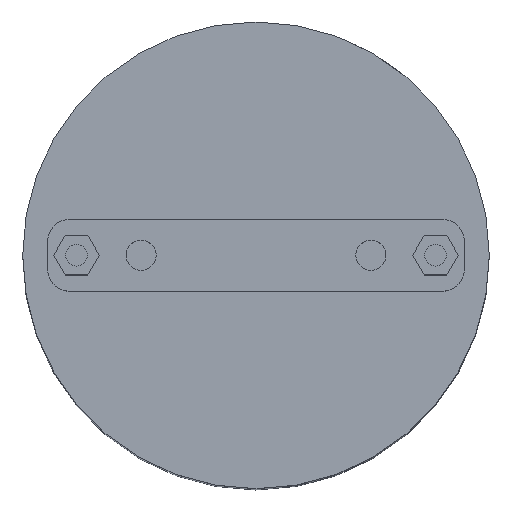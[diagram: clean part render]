
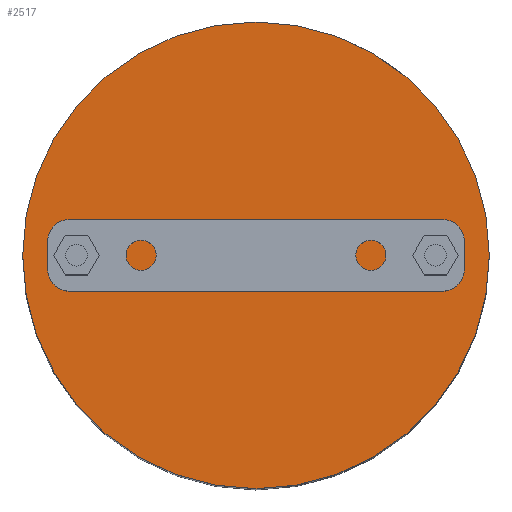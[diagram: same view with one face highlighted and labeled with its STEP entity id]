
A CAD part, top view. The second image highlights one B-rep face of the part: STEP entity #2517.
In plain terms, the highlighted planar face has unit normal (0, 0, 1).
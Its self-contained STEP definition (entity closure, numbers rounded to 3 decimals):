
#2401 = VERTEX_POINT('',#2402);
#2402 = CARTESIAN_POINT('',(32.5,0.,104.));
#2409 = CYLINDRICAL_SURFACE('',#2410,32.5);
#2410 = AXIS2_PLACEMENT_3D('',#2411,#2412,#2413);
#2411 = CARTESIAN_POINT('',(0.,0.,100.));
#2412 = DIRECTION('',(-0.,-0.,-1.));
#2413 = DIRECTION('',(1.,0.,0.));
#2428 = EDGE_CURVE('',#2401,#2401,#2429,.T.);
#2429 = SURFACE_CURVE('',#2430,(#2435,#2442),.PCURVE_S1.);
#2430 = CIRCLE('',#2431,32.5);
#2431 = AXIS2_PLACEMENT_3D('',#2432,#2433,#2434);
#2432 = CARTESIAN_POINT('',(0.,0.,104.));
#2433 = DIRECTION('',(0.,0.,1.));
#2434 = DIRECTION('',(1.,0.,0.));
#2435 = PCURVE('',#2409,#2436);
#2436 = DEFINITIONAL_REPRESENTATION('',(#2437),#2441);
#2437 = LINE('',#2438,#2439);
#2438 = CARTESIAN_POINT('',(-0.,-4.));
#2439 = VECTOR('',#2440,1.);
#2440 = DIRECTION('',(-1.,0.));
#2441 = ( GEOMETRIC_REPRESENTATION_CONTEXT(2) 
PARAMETRIC_REPRESENTATION_CONTEXT() REPRESENTATION_CONTEXT('2D SPACE',''
  ) );
#2442 = PCURVE('',#2443,#2448);
#2443 = PLANE('',#2444);
#2444 = AXIS2_PLACEMENT_3D('',#2445,#2446,#2447);
#2445 = CARTESIAN_POINT('',(0.,0.,104.)
  );
#2446 = DIRECTION('',(0.,0.,1.));
#2447 = DIRECTION('',(1.,0.,-0.));
#2448 = DEFINITIONAL_REPRESENTATION('',(#2449),#2453);
#2449 = CIRCLE('',#2450,32.5);
#2450 = AXIS2_PLACEMENT_2D('',#2451,#2452);
#2451 = CARTESIAN_POINT('',(0.,0.));
#2452 = DIRECTION('',(1.,0.));
#2453 = ( GEOMETRIC_REPRESENTATION_CONTEXT(2) 
PARAMETRIC_REPRESENTATION_CONTEXT() REPRESENTATION_CONTEXT('2D SPACE',''
  ) );
#2517 = ADVANCED_FACE('',(#2518,#2521,#2556),#2443,.T.);
#2518 = FACE_BOUND('',#2519,.T.);
#2519 = EDGE_LOOP('',(#2520));
#2520 = ORIENTED_EDGE('',*,*,#2428,.T.);
#2521 = FACE_BOUND('',#2522,.T.);
#2522 = EDGE_LOOP('',(#2523));
#2523 = ORIENTED_EDGE('',*,*,#2524,.T.);
#2524 = EDGE_CURVE('',#2525,#2525,#2527,.T.);
#2525 = VERTEX_POINT('',#2526);
#2526 = CARTESIAN_POINT('',(-23.3,0.,104.));
#2527 = SURFACE_CURVE('',#2528,(#2533,#2544),.PCURVE_S1.);
#2528 = CIRCLE('',#2529,1.7);
#2529 = AXIS2_PLACEMENT_3D('',#2530,#2531,#2532);
#2530 = CARTESIAN_POINT('',(-25.,0.,104.));
#2531 = DIRECTION('',(0.,0.,-1.));
#2532 = DIRECTION('',(1.,0.,0.));
#2533 = PCURVE('',#2443,#2534);
#2534 = DEFINITIONAL_REPRESENTATION('',(#2535),#2543);
#2535 = ( BOUNDED_CURVE() B_SPLINE_CURVE(2,(#2536,#2537,#2538,#2539,
#2540,#2541,#2542),.UNSPECIFIED.,.T.,.F.) B_SPLINE_CURVE_WITH_KNOTS((1,2
    ,2,2,2,1),(-2.094,0.,2.094,4.189,
6.283,8.378),.UNSPECIFIED.) CURVE() 
GEOMETRIC_REPRESENTATION_ITEM() RATIONAL_B_SPLINE_CURVE((1.,0.5,1.,0.5,
1.,0.5,1.)) REPRESENTATION_ITEM('') );
#2536 = CARTESIAN_POINT('',(-23.3,0.));
#2537 = CARTESIAN_POINT('',(-23.3,-2.944));
#2538 = CARTESIAN_POINT('',(-25.85,-1.472));
#2539 = CARTESIAN_POINT('',(-28.4,0.));
#2540 = CARTESIAN_POINT('',(-25.85,1.472));
#2541 = CARTESIAN_POINT('',(-23.3,2.944));
#2542 = CARTESIAN_POINT('',(-23.3,0.));
#2543 = ( GEOMETRIC_REPRESENTATION_CONTEXT(2) 
PARAMETRIC_REPRESENTATION_CONTEXT() REPRESENTATION_CONTEXT('2D SPACE',''
  ) );
#2544 = PCURVE('',#2545,#2550);
#2545 = CYLINDRICAL_SURFACE('',#2546,1.7);
#2546 = AXIS2_PLACEMENT_3D('',#2547,#2548,#2549);
#2547 = CARTESIAN_POINT('',(-25.,0.,96.));
#2548 = DIRECTION('',(-0.,-0.,-1.));
#2549 = DIRECTION('',(1.,0.,0.));
#2550 = DEFINITIONAL_REPRESENTATION('',(#2551),#2555);
#2551 = LINE('',#2552,#2553);
#2552 = CARTESIAN_POINT('',(-6.283,-8.));
#2553 = VECTOR('',#2554,1.);
#2554 = DIRECTION('',(1.,-0.));
#2555 = ( GEOMETRIC_REPRESENTATION_CONTEXT(2) 
PARAMETRIC_REPRESENTATION_CONTEXT() REPRESENTATION_CONTEXT('2D SPACE',''
  ) );
#2556 = FACE_BOUND('',#2557,.T.);
#2557 = EDGE_LOOP('',(#2558));
#2558 = ORIENTED_EDGE('',*,*,#2559,.T.);
#2559 = EDGE_CURVE('',#2560,#2560,#2562,.T.);
#2560 = VERTEX_POINT('',#2561);
#2561 = CARTESIAN_POINT('',(26.7,0.,104.));
#2562 = SURFACE_CURVE('',#2563,(#2568,#2579),.PCURVE_S1.);
#2563 = CIRCLE('',#2564,1.7);
#2564 = AXIS2_PLACEMENT_3D('',#2565,#2566,#2567);
#2565 = CARTESIAN_POINT('',(25.,0.,104.));
#2566 = DIRECTION('',(0.,0.,-1.));
#2567 = DIRECTION('',(1.,0.,0.));
#2568 = PCURVE('',#2443,#2569);
#2569 = DEFINITIONAL_REPRESENTATION('',(#2570),#2578);
#2570 = ( BOUNDED_CURVE() B_SPLINE_CURVE(2,(#2571,#2572,#2573,#2574,
#2575,#2576,#2577),.UNSPECIFIED.,.T.,.F.) B_SPLINE_CURVE_WITH_KNOTS((1,2
    ,2,2,2,1),(-2.094,0.,2.094,4.189,
6.283,8.378),.UNSPECIFIED.) CURVE() 
GEOMETRIC_REPRESENTATION_ITEM() RATIONAL_B_SPLINE_CURVE((1.,0.5,1.,0.5,
1.,0.5,1.)) REPRESENTATION_ITEM('') );
#2571 = CARTESIAN_POINT('',(26.7,0.));
#2572 = CARTESIAN_POINT('',(26.7,-2.944));
#2573 = CARTESIAN_POINT('',(24.15,-1.472));
#2574 = CARTESIAN_POINT('',(21.6,0.));
#2575 = CARTESIAN_POINT('',(24.15,1.472));
#2576 = CARTESIAN_POINT('',(26.7,2.944));
#2577 = CARTESIAN_POINT('',(26.7,0.));
#2578 = ( GEOMETRIC_REPRESENTATION_CONTEXT(2) 
PARAMETRIC_REPRESENTATION_CONTEXT() REPRESENTATION_CONTEXT('2D SPACE',''
  ) );
#2579 = PCURVE('',#2580,#2585);
#2580 = CYLINDRICAL_SURFACE('',#2581,1.7);
#2581 = AXIS2_PLACEMENT_3D('',#2582,#2583,#2584);
#2582 = CARTESIAN_POINT('',(25.,0.,96.));
#2583 = DIRECTION('',(-0.,-0.,-1.));
#2584 = DIRECTION('',(1.,0.,0.));
#2585 = DEFINITIONAL_REPRESENTATION('',(#2586),#2590);
#2586 = LINE('',#2587,#2588);
#2587 = CARTESIAN_POINT('',(-6.283,-8.));
#2588 = VECTOR('',#2589,1.);
#2589 = DIRECTION('',(1.,-0.));
#2590 = ( GEOMETRIC_REPRESENTATION_CONTEXT(2) 
PARAMETRIC_REPRESENTATION_CONTEXT() REPRESENTATION_CONTEXT('2D SPACE',''
  ) );
